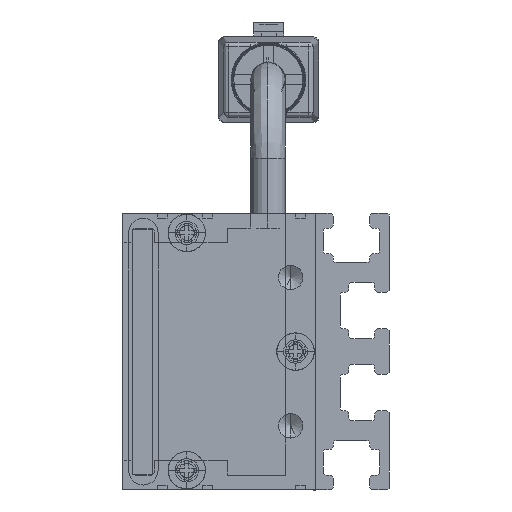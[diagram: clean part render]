
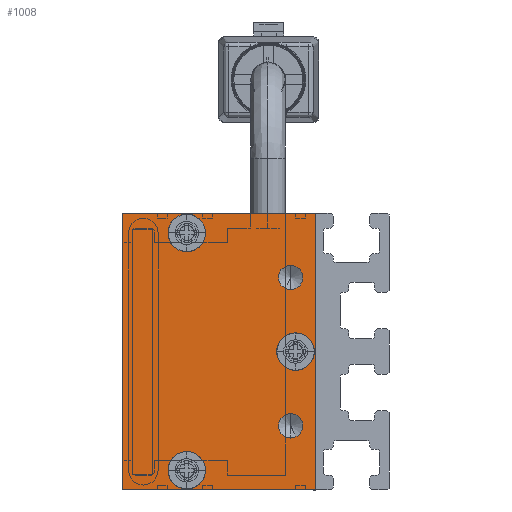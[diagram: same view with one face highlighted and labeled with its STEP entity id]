
A CAD part, left-side view. The second image highlights one B-rep face of the part: STEP entity #1008.
In plain terms, the highlighted planar face has unit normal (-1, 0, 0) as drawn and (0, 0, -1) by its records, which use the part's own axes.
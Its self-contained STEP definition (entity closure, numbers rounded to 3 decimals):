
#56 = VERTEX_POINT ( 'NONE', #13986 ) ;
#153 = AXIS2_PLACEMENT_3D ( 'NONE', #4846, #9209, #13514 ) ;
#231 = AXIS2_PLACEMENT_3D ( 'NONE', #8354, #9578, #7292 ) ;
#660 = ORIENTED_EDGE ( 'NONE', *, *, #12435, .F. ) ;
#665 = DIRECTION ( 'NONE',  ( 0., 0., -1. ) ) ;
#680 = CARTESIAN_POINT ( 'NONE',  ( -6.25, 2.5, -2.5 ) ) ;
#739 = CARTESIAN_POINT ( 'NONE',  ( 10.1, 13., -2.5 ) ) ;
#794 = EDGE_CURVE ( 'NONE', #7214, #6964, #13854, .T. ) ;
#849 = EDGE_LOOP ( 'NONE', ( #2301, #1110, #10551, #5408 ) ) ;
#1008 = ADVANCED_FACE ( 'NONE', ( #8032, #1417, #13216, #11242, #9121, #6834 ), #3468, .T. ) ;
#1050 = EDGE_LOOP ( 'NONE', ( #5124, #10446 ) ) ;
#1110 = ORIENTED_EDGE ( 'NONE', *, *, #2199, .F. ) ;
#1219 = AXIS2_PLACEMENT_3D ( 'NONE', #11970, #12954, #9856 ) ;
#1298 = DIRECTION ( 'NONE',  ( 0., 0., -1. ) ) ;
#1417 = FACE_BOUND ( 'NONE', #1815, .T. ) ;
#1527 = EDGE_CURVE ( 'NONE', #6482, #5583, #4763, .T. ) ;
#1542 = LINE ( 'NONE', #5898, #11938 ) ;
#1815 = EDGE_LOOP ( 'NONE', ( #3907, #660 ) ) ;
#1966 = CIRCLE ( 'NONE', #13985, 1.9 ) ;
#2026 = ORIENTED_EDGE ( 'NONE', *, *, #11845, .F. ) ;
#2161 = CARTESIAN_POINT ( 'NONE',  ( 14., 19.5, -2.5 ) ) ;
#2199 = EDGE_CURVE ( 'NONE', #56, #7214, #11552, .T. ) ;
#2301 = ORIENTED_EDGE ( 'NONE', *, *, #794, .F. ) ;
#2438 = EDGE_CURVE ( 'NONE', #5607, #13298, #7049, .T. ) ;
#2477 = CARTESIAN_POINT ( 'NONE',  ( -12., 13., -2.5 ) ) ;
#2607 = EDGE_CURVE ( 'NONE', #12267, #2651, #9805, .T. ) ;
#2616 = CIRCLE ( 'NONE', #4681, 1.25 ) ;
#2651 = VERTEX_POINT ( 'NONE', #9563 ) ;
#2854 = CARTESIAN_POINT ( 'NONE',  ( 14., 0., -2.5 ) ) ;
#2926 = VECTOR ( 'NONE', #6158, 1000. ) ;
#3049 = DIRECTION ( 'NONE',  ( 0., 1., 0. ) ) ;
#3251 = CIRCLE ( 'NONE', #1219, 1.9 ) ;
#3468 = PLANE ( 'NONE',  #8621 ) ;
#3483 = DIRECTION ( 'NONE',  ( 0., -1., 0. ) ) ;
#3601 = EDGE_CURVE ( 'NONE', #3877, #13355, #13639, .T. ) ;
#3619 = AXIS2_PLACEMENT_3D ( 'NONE', #10064, #1298, #9997 ) ;
#3877 = VERTEX_POINT ( 'NONE', #6122 ) ;
#3907 = ORIENTED_EDGE ( 'NONE', *, *, #8127, .F. ) ;
#4080 = AXIS2_PLACEMENT_3D ( 'NONE', #6080, #665, #7277 ) ;
#4120 = CARTESIAN_POINT ( 'NONE',  ( 14., 19.5, -2.5 ) ) ;
#4637 = DIRECTION ( 'NONE',  ( -1., 0., 0. ) ) ;
#4670 = CIRCLE ( 'NONE', #12832, 1.9 ) ;
#4681 = AXIS2_PLACEMENT_3D ( 'NONE', #8264, #9275, #10560 ) ;
#4763 = CIRCLE ( 'NONE', #231, 1.9 ) ;
#4831 = DIRECTION ( 'NONE',  ( -1., 0., 0. ) ) ;
#4846 = CARTESIAN_POINT ( 'NONE',  ( 7.5, 2.5, -2.5 ) ) ;
#5073 = CARTESIAN_POINT ( 'NONE',  ( 14., 0., -2.5 ) ) ;
#5124 = ORIENTED_EDGE ( 'NONE', *, *, #10795, .F. ) ;
#5408 = ORIENTED_EDGE ( 'NONE', *, *, #11772, .F. ) ;
#5487 = CARTESIAN_POINT ( 'NONE',  ( 1.9, 2., -2.5 ) ) ;
#5574 = CARTESIAN_POINT ( 'NONE',  ( -14., 0., -2.5 ) ) ;
#5583 = VERTEX_POINT ( 'NONE', #739 ) ;
#5607 = VERTEX_POINT ( 'NONE', #5487 ) ;
#5703 = DIRECTION ( 'NONE',  ( 0., 0., -1. ) ) ;
#5898 = CARTESIAN_POINT ( 'NONE',  ( -14., 19.5, -2.5 ) ) ;
#5931 = ORIENTED_EDGE ( 'NONE', *, *, #1527, .F. ) ;
#6080 = CARTESIAN_POINT ( 'NONE',  ( -7.5, 2.5, -2.5 ) ) ;
#6122 = CARTESIAN_POINT ( 'NONE',  ( 8.75, 2.5, -2.5 ) ) ;
#6158 = DIRECTION ( 'NONE',  ( 1., 0., 0. ) ) ;
#6290 = VERTEX_POINT ( 'NONE', #7617 ) ;
#6307 = CARTESIAN_POINT ( 'NONE',  ( -12., 13., -2.5 ) ) ;
#6482 = VERTEX_POINT ( 'NONE', #8961 ) ;
#6572 = DIRECTION ( 'NONE',  ( 0., 0., -1. ) ) ;
#6834 = FACE_OUTER_BOUND ( 'NONE', #849, .T. ) ;
#6884 = CARTESIAN_POINT ( 'NONE',  ( -13.9, 13., -2.5 ) ) ;
#6964 = VERTEX_POINT ( 'NONE', #2161 ) ;
#7049 = CIRCLE ( 'NONE', #3619, 1.9 ) ;
#7214 = VERTEX_POINT ( 'NONE', #2854 ) ;
#7277 = DIRECTION ( 'NONE',  ( -1., 0., 0. ) ) ;
#7292 = DIRECTION ( 'NONE',  ( -1., 0., 0. ) ) ;
#7429 = VERTEX_POINT ( 'NONE', #13099 ) ;
#7511 = ORIENTED_EDGE ( 'NONE', *, *, #3601, .F. ) ;
#7611 = DIRECTION ( 'NONE',  ( -1., 0., 0. ) ) ;
#7617 = CARTESIAN_POINT ( 'NONE',  ( -14., 19.5, -2.5 ) ) ;
#7831 = CARTESIAN_POINT ( 'NONE',  ( 0., 0., -2.5 ) ) ;
#7861 = AXIS2_PLACEMENT_3D ( 'NONE', #2477, #13435, #4637 ) ;
#7864 = CARTESIAN_POINT ( 'NONE',  ( 6.25, 2.5, -2.5 ) ) ;
#7920 = ORIENTED_EDGE ( 'NONE', *, *, #2607, .F. ) ;
#7991 = CARTESIAN_POINT ( 'NONE',  ( -1.9, 2., -2.5 ) ) ;
#8032 = FACE_BOUND ( 'NONE', #9572, .T. ) ;
#8127 = EDGE_CURVE ( 'NONE', #10699, #7429, #9013, .T. ) ;
#8175 = EDGE_LOOP ( 'NONE', ( #2026, #7920 ) ) ;
#8264 = CARTESIAN_POINT ( 'NONE',  ( -7.5, 2.5, -2.5 ) ) ;
#8354 = CARTESIAN_POINT ( 'NONE',  ( 12., 13., -2.5 ) ) ;
#8621 = AXIS2_PLACEMENT_3D ( 'NONE', #7831, #5703, #4831 ) ;
#8779 = CIRCLE ( 'NONE', #153, 1.25 ) ;
#8956 = DIRECTION ( 'NONE',  ( 0., 0., -1. ) ) ;
#8961 = CARTESIAN_POINT ( 'NONE',  ( 13.9, 13., -2.5 ) ) ;
#9013 = CIRCLE ( 'NONE', #7861, 1.9 ) ;
#9043 = CARTESIAN_POINT ( 'NONE',  ( 12., 13., -2.5 ) ) ;
#9121 = FACE_BOUND ( 'NONE', #8175, .T. ) ;
#9209 = DIRECTION ( 'NONE',  ( 0., 0., -1. ) ) ;
#9275 = DIRECTION ( 'NONE',  ( 0., 0., -1. ) ) ;
#9563 = CARTESIAN_POINT ( 'NONE',  ( -8.75, 2.5, -2.5 ) ) ;
#9572 = EDGE_LOOP ( 'NONE', ( #11159, #5931 ) ) ;
#9578 = DIRECTION ( 'NONE',  ( 0., 0., -1. ) ) ;
#9805 = CIRCLE ( 'NONE', #4080, 1.25 ) ;
#9856 = DIRECTION ( 'NONE',  ( -1., 0., 0. ) ) ;
#9997 = DIRECTION ( 'NONE',  ( -1., 0., 0. ) ) ;
#10064 = CARTESIAN_POINT ( 'NONE',  ( 0., 2., -2.5 ) ) ;
#10108 = DIRECTION ( 'NONE',  ( 0., 0., -1. ) ) ;
#10237 = DIRECTION ( 'NONE',  ( -1., 0., 0. ) ) ;
#10353 = ORIENTED_EDGE ( 'NONE', *, *, #11868, .F. ) ;
#10446 = ORIENTED_EDGE ( 'NONE', *, *, #2438, .F. ) ;
#10551 = ORIENTED_EDGE ( 'NONE', *, *, #10919, .F. ) ;
#10560 = DIRECTION ( 'NONE',  ( -1., 0., 0. ) ) ;
#10699 = VERTEX_POINT ( 'NONE', #6884 ) ;
#10772 = DIRECTION ( 'NONE',  ( -1., 0., 0. ) ) ;
#10781 = VECTOR ( 'NONE', #3483, 1000. ) ;
#10782 = EDGE_LOOP ( 'NONE', ( #10353, #7511 ) ) ;
#10795 = EDGE_CURVE ( 'NONE', #13298, #5607, #3251, .T. ) ;
#10919 = EDGE_CURVE ( 'NONE', #6290, #56, #13371, .T. ) ;
#11159 = ORIENTED_EDGE ( 'NONE', *, *, #11615, .F. ) ;
#11242 = FACE_BOUND ( 'NONE', #10782, .T. ) ;
#11552 = LINE ( 'NONE', #5073, #2926 ) ;
#11615 = EDGE_CURVE ( 'NONE', #5583, #6482, #4670, .T. ) ;
#11772 = EDGE_CURVE ( 'NONE', #6964, #6290, #1542, .T. ) ;
#11845 = EDGE_CURVE ( 'NONE', #2651, #12267, #2616, .T. ) ;
#11868 = EDGE_CURVE ( 'NONE', #13355, #3877, #8779, .T. ) ;
#11938 = VECTOR ( 'NONE', #10237, 1000. ) ;
#11970 = CARTESIAN_POINT ( 'NONE',  ( 0., 2., -2.5 ) ) ;
#12035 = VECTOR ( 'NONE', #3049, 1000. ) ;
#12267 = VERTEX_POINT ( 'NONE', #680 ) ;
#12435 = EDGE_CURVE ( 'NONE', #7429, #10699, #1966, .T. ) ;
#12832 = AXIS2_PLACEMENT_3D ( 'NONE', #9043, #10108, #7611 ) ;
#12954 = DIRECTION ( 'NONE',  ( 0., 0., -1. ) ) ;
#12972 = AXIS2_PLACEMENT_3D ( 'NONE', #13062, #8956, #13195 ) ;
#13062 = CARTESIAN_POINT ( 'NONE',  ( 7.5, 2.5, -2.5 ) ) ;
#13099 = CARTESIAN_POINT ( 'NONE',  ( -10.1, 13., -2.5 ) ) ;
#13195 = DIRECTION ( 'NONE',  ( -1., 0., 0. ) ) ;
#13216 = FACE_BOUND ( 'NONE', #1050, .T. ) ;
#13298 = VERTEX_POINT ( 'NONE', #7991 ) ;
#13355 = VERTEX_POINT ( 'NONE', #7864 ) ;
#13371 = LINE ( 'NONE', #5574, #10781 ) ;
#13435 = DIRECTION ( 'NONE',  ( 0., 0., -1. ) ) ;
#13514 = DIRECTION ( 'NONE',  ( -1., 0., 0. ) ) ;
#13639 = CIRCLE ( 'NONE', #12972, 1.25 ) ;
#13854 = LINE ( 'NONE', #4120, #12035 ) ;
#13985 = AXIS2_PLACEMENT_3D ( 'NONE', #6307, #6572, #10772 ) ;
#13986 = CARTESIAN_POINT ( 'NONE',  ( -14., 0., -2.5 ) ) ;
